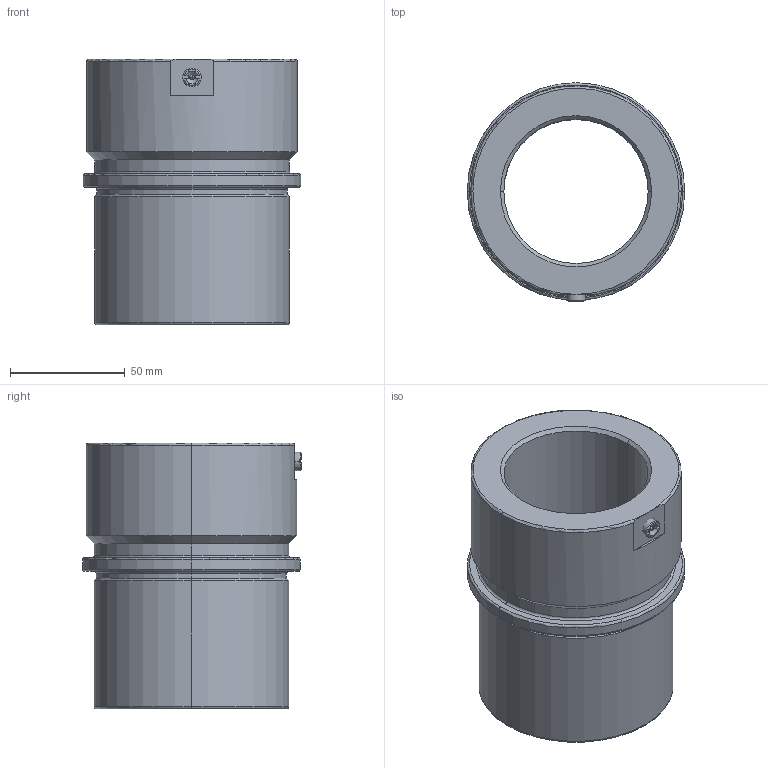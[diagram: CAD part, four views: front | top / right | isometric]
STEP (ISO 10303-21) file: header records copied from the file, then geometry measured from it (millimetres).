
FILE_DESCRIPTION(('CATIA V5 STEP Exchange'),'2;1');
FILE_NAME('C:\Users\Utente\Desktop\IO LAVORO\3D X SITO CF\X SITO\744\744-63.stp','2020-12-23T21:07:21+00:00',('none'),('none'),'CATIA Version 5 Release 20 GA (IN-10)','CATIA V5 STEP AP203','none');
FILE_SCHEMA(('CONFIG_CONTROL_DESIGN'));
Length unit declared in the file: millimetre
Products named in the file (1): 744-63
Bounding box: 95 x 95.5 x 116 mm (x, y, z)
Volume: 344457.3 mm3; surface area: 64230.7 mm2
Topology: 2 solids, 2 shells, 67 faces, 155 edges, 91 vertices
Faces by surface type: cylinder 16, plane 16, cone 16, torus 15, sphere 4
Entity records: 2030 total; most frequent: CARTESIAN_POINT 537, ORIENTED_EDGE 302, DIRECTION 266, AXIS2_PLACEMENT_3D 155, EDGE_CURVE 151, VERTEX_POINT 91, CIRCLE 87, EDGE_LOOP 74
